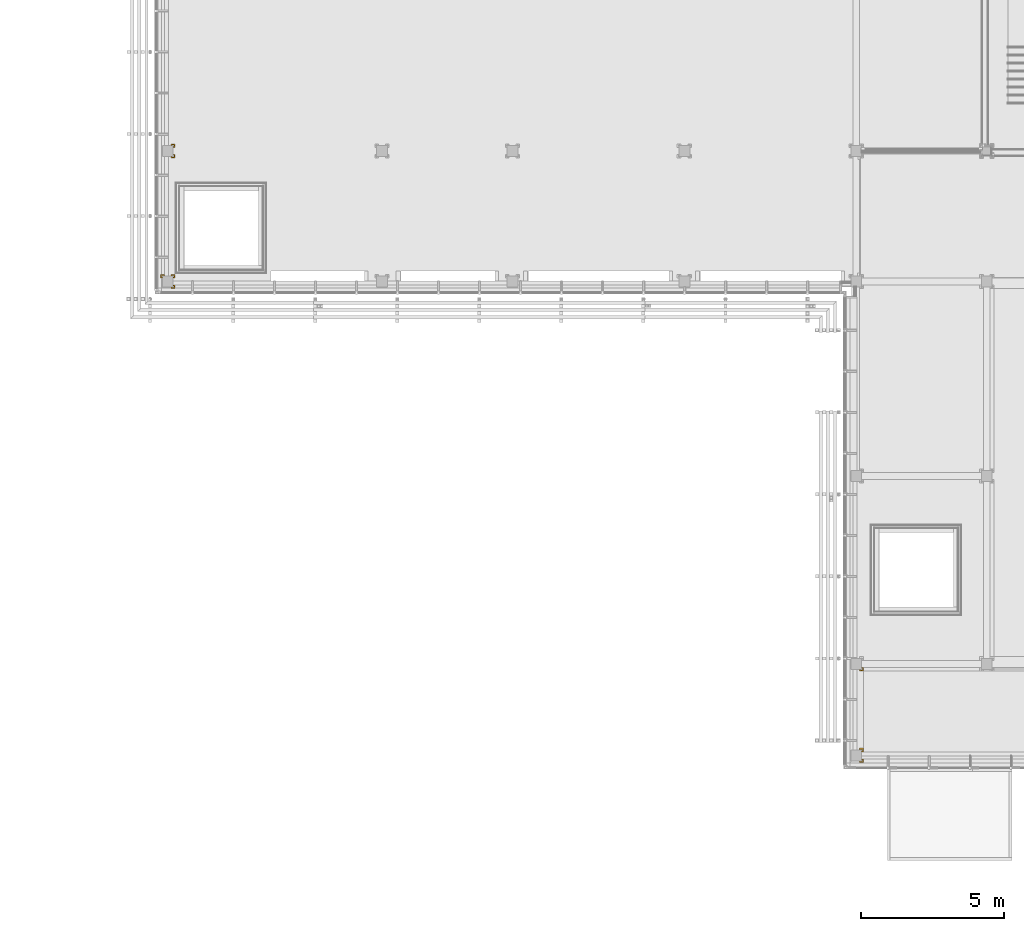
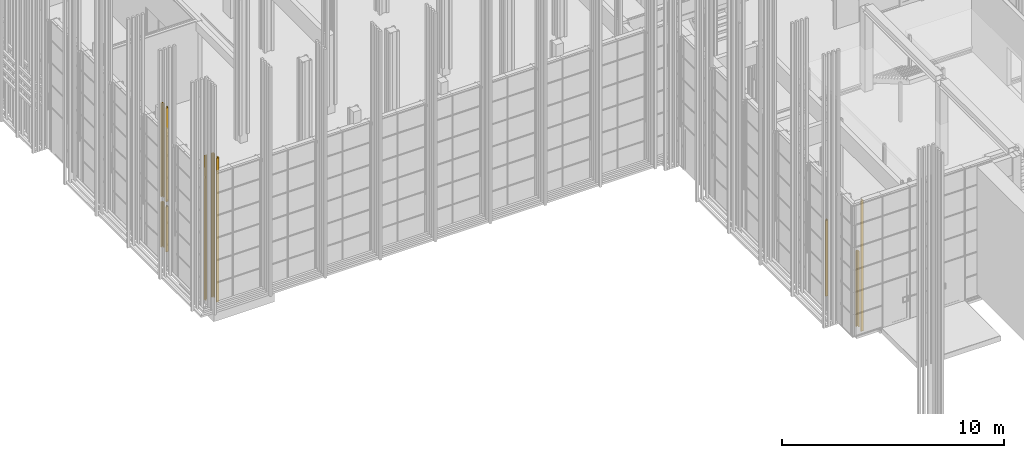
# One storey, part 254 of 260: 10 coverings.
"""IFC2X3 building model written with IfcOpenShell, lengths in millimetres."""

from ifc_helpers import new_model, entity, si_unit, converted_unit, derived_unit, money_unit, direction, frame, origin_with_axes, place, context, subcontext, project, spatial, faceted_brep, material, type_object, element, save


model = new_model("IFC2X3")

# Units and contexts
model_context = context("Model", 3, precision=0.01, world=origin_with_axes(), true_north=direction((0.0, 1.0)))
body_context = subcontext(model_context, "Body", "Model", "MODEL_VIEW")
ifc_project = project(units=[si_unit("LENGTHUNIT", "METRE", prefix="MILLI"), si_unit("AREAUNIT", "SQUARE_METRE"), si_unit("VOLUMEUNIT", "CUBIC_METRE"), converted_unit("PLANEANGLEUNIT", "DEGREE", entity("IfcPlaneAngleMeasure", 0.0174532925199), si_unit("PLANEANGLEUNIT", "RADIAN"), dimensions=[0, 0, 0, 0, 0, 0, 0]), money_unit("EUR"), converted_unit("TIMEUNIT", "Year", entity("IfcTimeMeasure", 31556926.0), si_unit("TIMEUNIT", "SECOND"), dimensions=[0, 0, 1, 0, 0, 0, 0]), si_unit("MASSUNIT", "GRAM", prefix="KILO"), si_unit("THERMODYNAMICTEMPERATUREUNIT", "DEGREE_CELSIUS"), si_unit("LUMINOUSINTENSITYUNIT", "LUMEN"), si_unit("ENERGYUNIT", "JOULE", prefix="MEGA"), derived_unit("THERMALCONDUCTANCEUNIT", [(si_unit("POWERUNIT", "WATT"), 1), (si_unit("LENGTHUNIT", "METRE"), -1), (si_unit("THERMODYNAMICTEMPERATUREUNIT", "KELVIN"), -1)]), derived_unit("SPECIFICHEATCAPACITYUNIT", [(si_unit("ENERGYUNIT", "JOULE"), 1), (si_unit("MASSUNIT", "GRAM", prefix="KILO"), -1), (si_unit("THERMODYNAMICTEMPERATUREUNIT", "KELVIN"), -1)]), derived_unit("MASSDENSITYUNIT", [(si_unit("MASSUNIT", "GRAM", prefix="KILO"), 1), (si_unit("VOLUMEUNIT", "CUBIC_METRE"), -1)])], contexts=[model_context])

# Site, building, storey
site_placement = place(None, origin_with_axes())
site = spatial("IfcSite", under=ifc_project, at=site_placement, Name="Kolde pst 67a", CompositionType="ELEMENT")
building_placement = place(site_placement, origin_with_axes())
building = spatial("IfcBuilding", under=site, at=building_placement, Name="Riigigümnaasium", CompositionType="ELEMENT")
storey_placement = place(building_placement, origin_with_axes())
storey = spatial("IfcBuildingStorey", under=building, at=storey_placement, Name="1. korrus", CompositionType="ELEMENT", Elevation=0.0)

# Coverings
ifc_material = material(Name="_KANDETARIND - liimpuit vastavalt EK osale")
covering_type = type_object("IfcCoveringType", Name="Aatriumi posti kõrvad 1 130 x 130", PredefinedType="NOTDEFINED")
covering_1_placement = place(storey_placement, frame((24230.0027342, 24230.2703941, 0.0), z_axis=(0.0, 0.0, 1.0), x_axis=(1.0, 0.0, 0.0)))
element("IfcCovering", 1, at=covering_1_placement, inside=storey, type_object=covering_type, material=ifc_material, Name="Posti katteelement", PredefinedType="NOTDEFINED", context=body_context, shape_type="Brep", body=[
    faceted_brep([(190.000000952, 120.000002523, 7920.0), (190.000000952, 120.000002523, 0.0), (250.0, 120.000002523, 0.0), (250.0, 120.000002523, 7920.0), (189.999999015, 149.995099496, 7920.0), (189.999999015, 149.995099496, 0.0), (209.999998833, 149.995099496, 0.0), (209.999998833, 209.995099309, 0.0), (149.99999902, 209.995099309, 0.0), (149.99999902, 189.995099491, 0.0), (119.999999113, 189.995101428, 0.0), (119.999999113, 250.00000341, 0.0), (250.0, 250.00000341, 0.0), (250.0, 250.00000341, 7920.0), (119.999999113, 250.00000341, 7920.0), (119.999999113, 189.995101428, 7920.0), (149.99999902, 189.995099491, 7920.0), (149.99999902, 209.995099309, 7920.0), (209.999998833, 209.995099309, 7920.0), (209.999998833, 149.995099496, 7920.0)], [[[0, 1, 2, 3]], [[4, 5, 1, 0]], [[2, 1, 5, 6, 7, 8, 9, 10, 11, 12]], [[3, 2, 12, 13]], [[4, 0, 3, 13, 14, 15, 16, 17, 18, 19]], [[19, 6, 5, 4]], [[18, 7, 6, 19]], [[17, 8, 7, 18]], [[16, 9, 8, 17]], [[15, 10, 9, 16]], [[14, 11, 10, 15]], [[13, 12, 11, 14]]]),
])
covering_2_placement = place(storey_placement, frame((24230.0027342, 28779.9996997, 2760.0), z_axis=(0.0, 0.0, 1.0), x_axis=(1.0, 0.0, 0.0)))
element("IfcCovering", 2, at=covering_2_placement, inside=storey, type_object=covering_type, material=ifc_material, Name="Posti katteelement", PredefinedType="NOTDEFINED", context=body_context, shape_type="Brep", body=[
    faceted_brep([(120.000002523, -190.000000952, 5160.0), (120.000002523, -190.000000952, 0.0), (120.000002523, -250.0, 0.0), (120.000002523, -250.0, 5160.0), (149.995099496, -189.999999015, 5160.0), (149.995099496, -189.999999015, 0.0), (149.995099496, -209.999998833, 0.0), (209.995099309, -209.999998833, 0.0), (209.995099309, -149.99999902, 0.0), (189.995099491, -149.99999902, 0.0), (189.995101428, -119.999999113, 0.0), (250.00000341, -119.999999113, 0.0), (250.00000341, -250.0, 0.0), (250.00000341, -250.0, 5160.0), (250.00000341, -119.999999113, 5160.0), (189.995101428, -119.999999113, 5160.0), (189.995099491, -149.99999902, 5160.0), (209.995099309, -149.99999902, 5160.0), (209.995099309, -209.999998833, 5160.0), (149.995099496, -209.999998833, 5160.0)], [[[0, 1, 2, 3]], [[4, 5, 1, 0]], [[2, 1, 5, 6, 7, 8, 9, 10, 11, 12]], [[3, 2, 12, 13]], [[4, 0, 3, 13, 14, 15, 16, 17, 18, 19]], [[19, 6, 5, 4]], [[18, 7, 6, 19]], [[17, 8, 7, 18]], [[16, 9, 8, 17]], [[15, 10, 9, 16]], [[14, 11, 10, 15]], [[13, 12, 11, 14]]]),
])
covering_3_placement = place(storey_placement, frame((48229.9854991, 10899.9619736, 0.0), z_axis=(0.0, 0.0, 1.0), x_axis=(1.0, 0.0, 0.0)))
element("IfcCovering", 3, at=covering_3_placement, inside=storey, type_object=covering_type, material=ifc_material, Name="Posti katteelement", PredefinedType="NOTDEFINED", context=body_context, shape_type="Brep", body=[
    faceted_brep([(120.000002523, -250.0, 4170.0), (120.000002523, -190.000000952, 4170.0), (120.000002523, -190.000000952, 0.0), (120.000002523, -250.0, 0.0), (149.995099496, -209.999998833, 4170.0), (149.995099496, -189.999999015, 4170.0), (250.00000341, -250.0, 4170.0), (250.00000341, -119.999999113, 4170.0), (189.995101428, -119.999999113, 4170.0), (189.995099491, -149.99999902, 4170.0), (209.995099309, -149.99999902, 4170.0), (209.995099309, -209.999998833, 4170.0), (149.995099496, -189.999999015, 0.0), (250.00000341, -250.0, 0.0), (149.995099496, -209.999998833, 0.0), (209.995099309, -209.999998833, 0.0), (209.995099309, -149.99999902, 0.0), (189.995099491, -149.99999902, 0.0), (189.995101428, -119.999999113, 0.0), (250.00000341, -119.999999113, 0.0)], [[[0, 1, 2, 3]], [[4, 5, 1, 0, 6, 7, 8, 9, 10, 11]], [[1, 5, 12, 2]], [[13, 3, 2, 12, 14, 15, 16, 17, 18, 19]], [[6, 0, 3, 13]], [[5, 4, 14, 12]], [[7, 6, 13, 19]], [[8, 7, 19, 18]], [[9, 8, 18, 17]], [[10, 9, 17, 16]], [[11, 10, 16, 15]], [[4, 11, 15, 14]]]),
])
covering_4_placement = place(storey_placement, frame((48229.9854798, 7710.0, 0.0), z_axis=(0.0, 0.0, 1.0), x_axis=(1.0, 0.0, 0.0)))
element("IfcCovering", 4, at=covering_4_placement, inside=storey, type_object=covering_type, material=ifc_material, Name="Posti katteelement", PredefinedType="NOTDEFINED", context=body_context, shape_type="Brep", body=[
    faceted_brep([(149.995099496, 209.999998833, 4170.0), (149.995099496, 189.999999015, 4170.0), (149.995099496, 189.999999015, 0.0), (149.995099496, 209.999998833, 0.0), (120.000002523, 250.0, 4170.0), (120.000002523, 190.000000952, 4170.0), (209.995099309, 209.999998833, 4170.0), (209.995099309, 149.99999902, 4170.0), (189.995099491, 149.99999902, 4170.0), (189.995101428, 119.999999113, 4170.0), (250.00000341, 119.999999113, 4170.0), (250.00000341, 250.0, 4170.0), (120.000002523, 190.000000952, 0.0), (209.995099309, 209.999998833, 0.0), (120.000002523, 250.0, 0.0), (250.00000341, 250.0, 0.0), (250.00000341, 119.999999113, 0.0), (189.995101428, 119.999999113, 0.0), (189.995099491, 149.99999902, 0.0), (209.995099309, 149.99999902, 0.0)], [[[0, 1, 2, 3]], [[4, 5, 1, 0, 6, 7, 8, 9, 10, 11]], [[1, 5, 12, 2]], [[13, 3, 2, 12, 14, 15, 16, 17, 18, 19]], [[6, 0, 3, 13]], [[5, 4, 14, 12]], [[7, 6, 13, 19]], [[8, 7, 19, 18]], [[9, 8, 18, 17]], [[10, 9, 17, 16]], [[11, 10, 16, 15]], [[4, 11, 15, 14]]]),
])
for number, where, z_axis, x_axis in (
    (5, (24230.0027342, 24230.2703941, 0.0), (0.0, 0.0, 1.0), (0.0, 1.0, 0.0)),
    (6, (24230.0027342, 24230.2703941, 0.0), (0.0, 0.0, 1.0), (0.0, -1.0, 0.0)),
):
    element("IfcCovering", number, at=place(storey_placement, frame(where, z_axis=z_axis, x_axis=x_axis)), inside=storey, type_object=covering_type, material=ifc_material, Name="Posti katteelement", PredefinedType="NOTDEFINED", context=body_context, shape_type="Brep", body=[
        faceted_brep([(250.0, 120.000002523, 7920.0), (190.000000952, 120.000002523, 7920.0), (190.000000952, 120.000002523, 0.0), (250.0, 120.000002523, 0.0), (209.999998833, 149.995099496, 7920.0), (189.999999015, 149.995099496, 7920.0), (250.0, 250.00000341, 7920.0), (119.999999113, 250.00000341, 7920.0), (119.999999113, 189.995101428, 7920.0), (149.99999902, 189.995099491, 7920.0), (149.99999902, 209.995099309, 7920.0), (209.999998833, 209.995099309, 7920.0), (189.999999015, 149.995099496, 0.0), (250.0, 250.00000341, 0.0), (209.999998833, 149.995099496, 0.0), (209.999998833, 209.995099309, 0.0), (149.99999902, 209.995099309, 0.0), (149.99999902, 189.995099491, 0.0), (119.999999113, 189.995101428, 0.0), (119.999999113, 250.00000341, 0.0)], [[[0, 1, 2, 3]], [[4, 5, 1, 0, 6, 7, 8, 9, 10, 11]], [[1, 5, 12, 2]], [[13, 3, 2, 12, 14, 15, 16, 17, 18, 19]], [[6, 0, 3, 13]], [[5, 4, 14, 12]], [[7, 6, 13, 19]], [[8, 7, 19, 18]], [[9, 8, 18, 17]], [[10, 9, 17, 16]], [[11, 10, 16, 15]], [[4, 11, 15, 14]]]),
    ])
covering_5_placement = place(storey_placement, frame((24230.0027342, 28779.9996997, 2760.0), z_axis=(0.0, 0.0, 1.0), x_axis=(1.36394791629e-08, 1.0, 0.0)))
element("IfcCovering", 7, at=covering_5_placement, inside=storey, type_object=covering_type, material=ifc_material, Name="Posti katteelement", PredefinedType="NOTDEFINED", context=body_context, shape_type="Brep", body=[
    faceted_brep([(120.000002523, -190.000000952, 5160.0), (120.000002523, -190.000000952, 0.0), (120.000002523, -250.0, 0.0), (120.000002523, -250.0, 5160.0), (149.995099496, -189.999999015, 5160.0), (149.995099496, -189.999999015, 0.0), (149.995099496, -209.999998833, 0.0), (209.995099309, -209.999998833, 0.0), (209.995099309, -149.99999902, 0.0), (189.995099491, -149.99999902, 0.0), (189.995101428, -119.999999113, 0.0), (250.00000341, -119.999999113, 0.0), (250.00000341, -250.0, 0.0), (250.00000341, -250.0, 5160.0), (250.00000341, -119.999999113, 5160.0), (189.995101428, -119.999999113, 5160.0), (189.995099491, -149.99999902, 5160.0), (209.995099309, -149.99999902, 5160.0), (209.995099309, -209.999998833, 5160.0), (149.995099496, -209.999998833, 5160.0)], [[[0, 1, 2, 3]], [[4, 5, 1, 0]], [[2, 1, 5, 6, 7, 8, 9, 10, 11, 12]], [[3, 2, 12, 13]], [[4, 0, 3, 13, 14, 15, 16, 17, 18, 19]], [[19, 6, 5, 4]], [[18, 7, 6, 19]], [[17, 8, 7, 18]], [[16, 9, 8, 17]], [[15, 10, 9, 16]], [[14, 11, 10, 15]], [[13, 12, 11, 14]]]),
])
for number, where, z_axis, x_axis in (
    (8, (24230.0027342, 28779.9996997, 0.0), (0.0, 0.0, 1.0), (1.0, 0.0, 0.0)),
    (9, (24230.0027342, 28779.9996997, 0.0), (0.0, 0.0, 1.0), (1.36394791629e-08, 1.0, 0.0)),
):
    element("IfcCovering", number, at=place(storey_placement, frame(where, z_axis=z_axis, x_axis=x_axis)), inside=storey, type_object=covering_type, material=ifc_material, Name="Posti katteelement", PredefinedType="NOTDEFINED", context=body_context, shape_type="Brep", body=[
        faceted_brep([(120.000002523, -190.000000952, 2480.0), (120.000002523, -190.000000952, 0.0), (120.000002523, -250.0, 0.0), (120.000002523, -250.0, 2480.0), (149.995099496, -189.999999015, 2480.0), (149.995099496, -189.999999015, 0.0), (149.995099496, -209.999998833, 0.0), (209.995099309, -209.999998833, 0.0), (209.995099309, -149.99999902, 0.0), (189.995099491, -149.99999902, 0.0), (189.995101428, -119.999999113, 0.0), (250.00000341, -119.999999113, 0.0), (250.00000341, -250.0, 0.0), (250.00000341, -250.0, 2480.0), (250.00000341, -119.999999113, 2480.0), (189.995101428, -119.999999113, 2480.0), (189.995099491, -149.99999902, 2480.0), (209.995099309, -149.99999902, 2480.0), (209.995099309, -209.999998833, 2480.0), (149.995099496, -209.999998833, 2480.0)], [[[0, 1, 2, 3]], [[4, 5, 1, 0]], [[2, 1, 5, 6, 7, 8, 9, 10, 11, 12]], [[3, 2, 12, 13]], [[4, 0, 3, 13, 14, 15, 16, 17, 18, 19]], [[19, 6, 5, 4]], [[18, 7, 6, 19]], [[17, 8, 7, 18]], [[16, 9, 8, 17]], [[15, 10, 9, 16]], [[14, 11, 10, 15]], [[13, 12, 11, 14]]]),
    ])
covering_6_placement = place(storey_placement, frame((48229.9854798, 7710.0, 0.0), z_axis=(0.0, 0.0, 1.0), x_axis=(6.81972839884e-09, -1.0, 0.0)))
element("IfcCovering", 10, at=covering_6_placement, inside=storey, type_object=covering_type, material=ifc_material, Name="Posti katteelement", PredefinedType="NOTDEFINED", context=body_context, shape_type="Brep", body=[
    faceted_brep([(149.995099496, 189.999999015, 7200.0), (149.995099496, 189.999999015, 0.0), (149.995099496, 209.999998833, 0.0), (149.995099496, 209.999998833, 7200.0), (120.000002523, 190.000000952, 7200.0), (120.000002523, 190.000000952, 0.0), (120.000002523, 250.0, 0.0), (250.00000341, 250.0, 0.0), (250.00000341, 119.999999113, 0.0), (189.995101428, 119.999999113, 0.0), (189.995099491, 149.99999902, 0.0), (209.995099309, 149.99999902, 0.0), (209.995099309, 209.999998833, 0.0), (209.995099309, 209.999998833, 7200.0), (209.995099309, 149.99999902, 7200.0), (189.995099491, 149.99999902, 7200.0), (189.995101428, 119.999999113, 7200.0), (250.00000341, 119.999999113, 7200.0), (250.00000341, 250.0, 7200.0), (120.000002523, 250.0, 7200.0)], [[[0, 1, 2, 3]], [[4, 5, 1, 0]], [[2, 1, 5, 6, 7, 8, 9, 10, 11, 12]], [[3, 2, 12, 13]], [[4, 0, 3, 13, 14, 15, 16, 17, 18, 19]], [[19, 6, 5, 4]], [[18, 7, 6, 19]], [[17, 8, 7, 18]], [[16, 9, 8, 17]], [[15, 10, 9, 16]], [[14, 11, 10, 15]], [[13, 12, 11, 14]]]),
])

save(model, "model.ifc")
